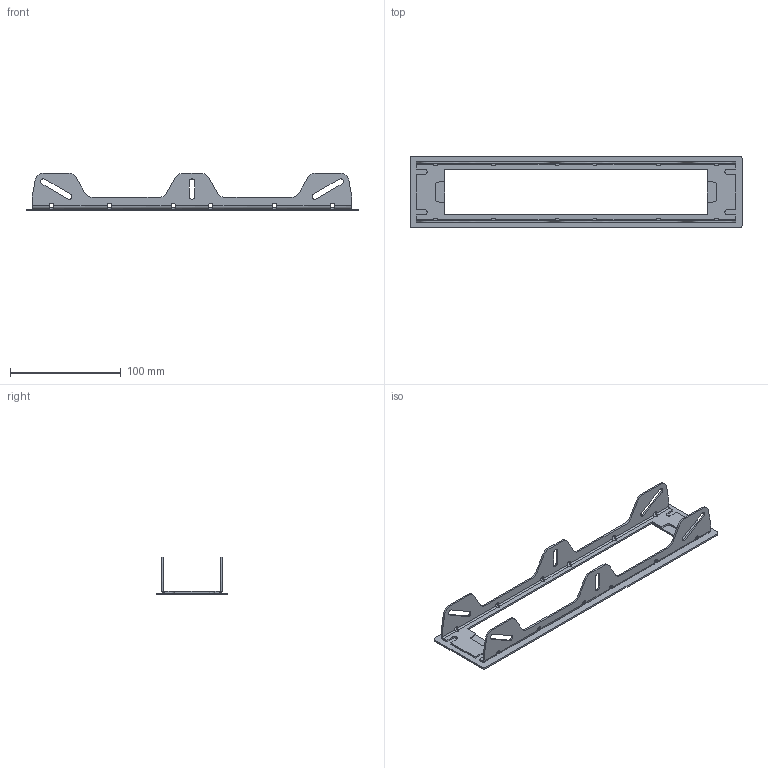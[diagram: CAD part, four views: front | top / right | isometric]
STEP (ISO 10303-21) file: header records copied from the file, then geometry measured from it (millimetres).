
FILE_DESCRIPTION(/* description */ (''),/* implementation_level */ '2;1');
FILE_NAME(/* name */ '/Users/lcraig/Downloads/FAB-B-1788 - Steel Panel Frame v1.step',/* time_stamp */ '2022-09-08T10:19:44+01:00',/* author */ (''),/* organization */ (''),/* preprocessor_version */ 'ST-DEVELOPER v19',/* originating_system */ 'Autodesk Translation Framework v11.7.0.108',/* authorisation */ '');
FILE_SCHEMA (('AUTOMOTIVE_DESIGN { 1 0 10303 214 3 1 1 }'));
Length unit declared in the file: millimetre
Products named in the file (3): FAB-B-1788 - Steel Panel Frame; FAB-B-1788-REAR_Folded; FAB-B-1788-FRONT
Assembly tree (2 placements, depth 2):
  FAB-B-1788 - Steel Panel Frame
    FAB-B-1788-REAR_Folded
    FAB-B-1788-FRONT
Bounding box: 300 x 65 x 33.8 mm (x, y, z)
Volume: 34977.6 mm3; surface area: 51743.5 mm2
Topology: 2 solids, 2 shells, 212 faces, 584 edges, 352 vertices
Faces by surface type: cylinder 104, plane 84, bspline 24
Entity records: 8241 total; most frequent: CARTESIAN_POINT 2762, ORIENTED_EDGE 1168, DIRECTION 1084, EDGE_CURVE 584, LINE 376, VECTOR 376, AXIS2_PLACEMENT_3D 354, VERTEX_POINT 352
